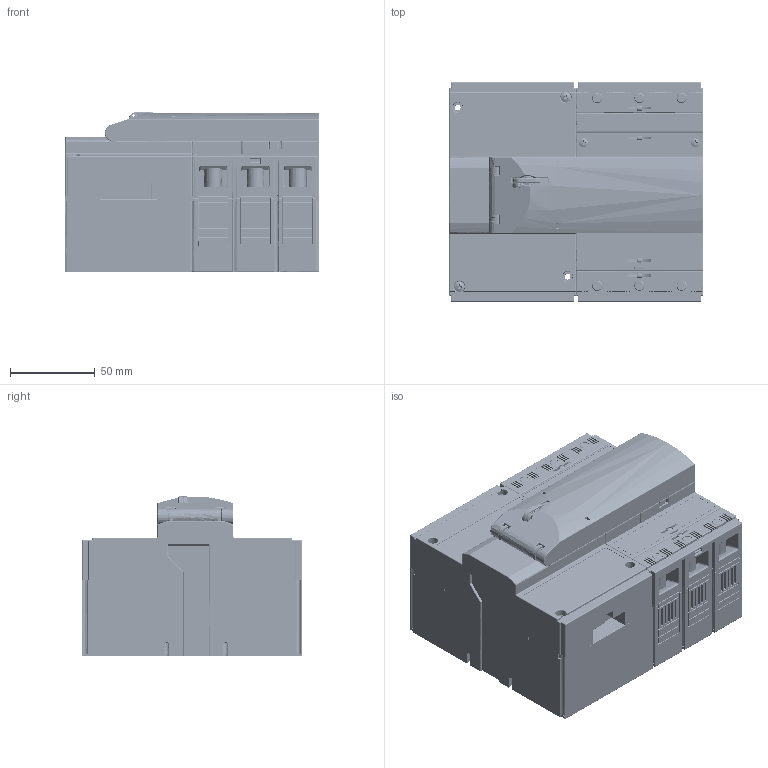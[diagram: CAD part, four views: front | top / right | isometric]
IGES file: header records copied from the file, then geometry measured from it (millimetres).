
Start section: SolidWorks IGES file using analytic representation for surfaces
Global section: file name: U:\14_RD\05_Technical_office\04_Office\Hrdinova\3D modely - IGES\Modeion\BC160NT305__MP-BC.IGS; native system: SolidWorks 2011; preprocessor: SolidWorks 2011; author: adhrja3; date: 170615.122643; units: millimetre
Bounding box: 150 x 130 x 94.7 mm (x, y, z)
Surface area: 184482.4 mm2 (no closed solid volume)
Topology: 0 solids, 0 shells, 5210 faces, 43048 edges, 42965 vertices
Faces by surface type: bspline 3377, revolution 1833
